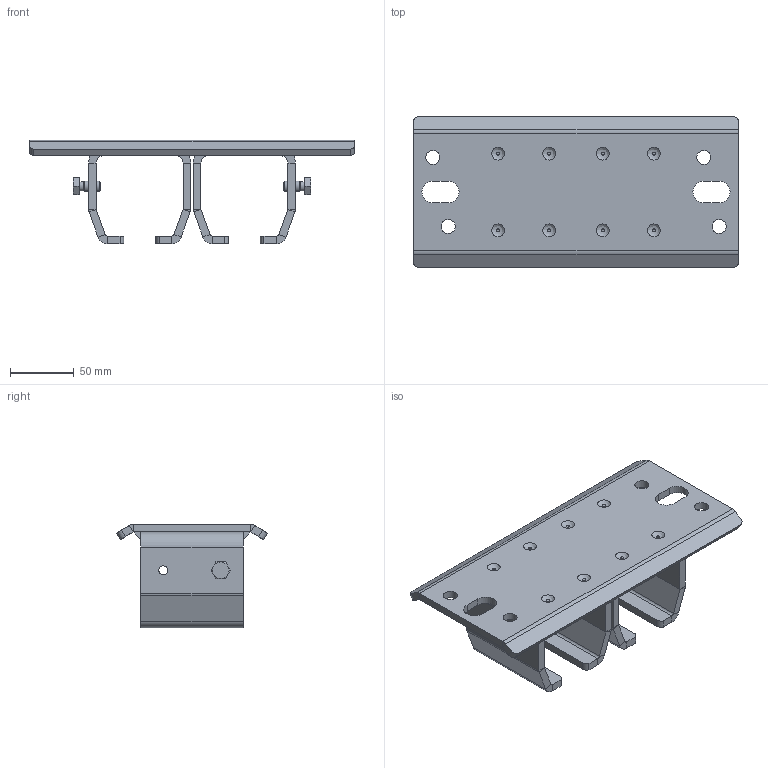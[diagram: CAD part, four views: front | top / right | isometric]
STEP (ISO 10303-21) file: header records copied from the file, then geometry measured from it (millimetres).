
FILE_DESCRIPTION(/* description */ ('Doppelte Deckenbefestigung Nr.3'),/* implementation_level */ '2;1');
FILE_NAME(/* name */ 'Q:\sge-ma\Produktmanagement-STB\STB\Workspace\stp\010333065.stp',/* time_stamp */ '2015-03-10T13:07:48+01:00',/* author */ ('avschreier'),/* organization */ (''),/* preprocessor_version */ 'ST-DEVELOPER v15.6',/* originating_system */ 'Autodesk Inventor 2015',/* authorisation */ '');
FILE_SCHEMA (('CONFIG_CONTROL_DESIGN'));
Length unit declared in the file: millimetre
Products named in the file (5): 010333065_Schweißnähte; 337000245; 335140030; DIN_EN_ISO_4017-M8x16_en; 010333065
Bounding box: 254 x 117.88 x 81 mm (x, y, z)
Volume: 403100.5 mm3; surface area: 152671.1 mm2
Topology: 13 solids, 13 shells, 280 faces, 594 edges, 360 vertices
Faces by surface type: plane 182, cylinder 66, bspline 16, cone 16
Full cylindrical faces by diameter (mm): 6.647 x6, 6.8 x6, 7.323 x2, 8 x2, 11 x4, 11.4 x2
Entity records: 5578 total; most frequent: CARTESIAN_POINT 1324, DIRECTION 882, ORIENTED_EDGE 786, EDGE_CURVE 393, AXIS2_PLACEMENT_3D 327, VERTEX_POINT 253, EDGE_LOOP 252, LINE 228
